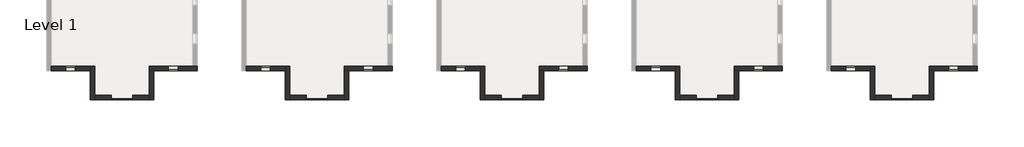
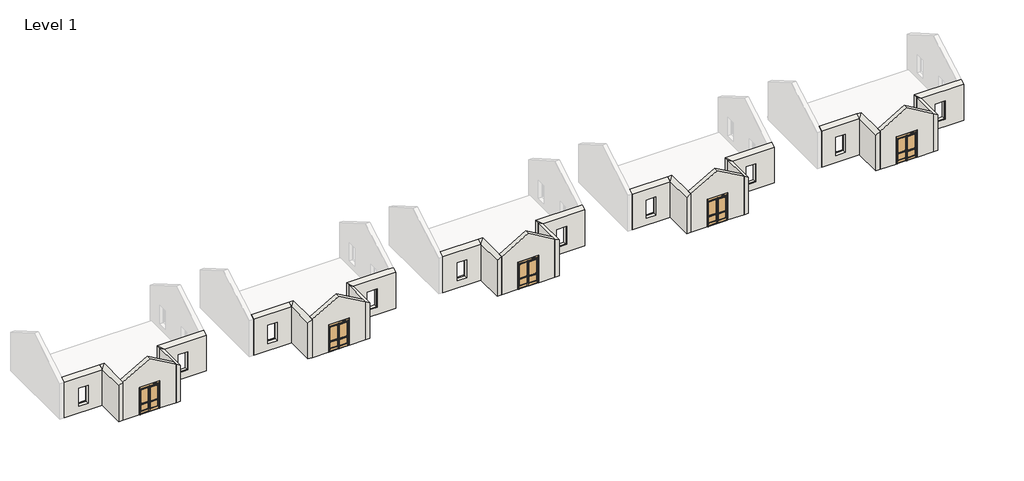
# One storey, part 1 of 4: 25 walls, 5 doors.
"""IFC4 building model written with IfcOpenShell, lengths in millimetres."""

from ifc_helpers import new_model, si_unit, frame, origin, place, context, project, spatial, polyline, outline, extrude, faceted_brep, transform, mapped, element, save
from components import non_impact_rated_medium_stile_77e616cb

model = new_model("IFC4")

# Units and contexts
model_context = context("Model", 3, world=origin())
ifc_project = project(units=[si_unit("LENGTHUNIT", "METRE", prefix="MILLI")], contexts=[model_context])

# Site, building, storey
site = spatial("IfcSite", under=ifc_project)
building = spatial("IfcBuilding", under=site)
storey = spatial("IfcBuildingStorey", under=building, Name="Level 1", Elevation=0.0)

# Doors
placement = place(None, origin())
non_impact_rated_medium_stile_shape = non_impact_rated_medium_stile_77e616cb(model_context)
element("IfcDoor", 1, ObjectType="Door_Sliding_AssaAbloy_Resilience-R128-FBO-Single : Non Impact Rated - Medium Stile", at=placement, inside=storey, context=model_context, shape_type="MappedRepresentation", body=[
    mapped(non_impact_rated_medium_stile_shape, transform((-20939.1239555, -6391.8790712, 0.0), x_axis=(1.0, 0.0, 0.0), y_axis=(0.0, 1.0, 0.0), z_axis=(0.0, 0.0, 1.0))),
])
element("IfcDoor", 2, ObjectType="Door_Sliding_AssaAbloy_Resilience-R128-FBO-Single : Non Impact Rated - Medium Stile", at=placement, inside=storey, context=model_context, shape_type="MappedRepresentation", body=[
    mapped(non_impact_rated_medium_stile_shape, transform((-939.1239555, -6391.8790712, 0.0), x_axis=(1.0, 0.0, 0.0), y_axis=(0.0, 1.0, 0.0), z_axis=(0.0, 0.0, 1.0))),
])
element("IfcDoor", 3, ObjectType="Door_Sliding_AssaAbloy_Resilience-R128-FBO-Single : Non Impact Rated - Medium Stile", at=placement, inside=storey, context=model_context, shape_type="MappedRepresentation", body=[
    mapped(non_impact_rated_medium_stile_shape, transform((19060.8760445, -6391.8790712, 0.0), x_axis=(1.0, 0.0, 0.0), y_axis=(0.0, 1.0, 0.0), z_axis=(0.0, 0.0, 1.0))),
])
element("IfcDoor", 4, ObjectType="Door_Sliding_AssaAbloy_Resilience-R128-FBO-Single : Non Impact Rated - Medium Stile", at=placement, inside=storey, context=model_context, shape_type="MappedRepresentation", body=[
    mapped(non_impact_rated_medium_stile_shape, transform((39060.8760445, -6391.8790712, 0.0), x_axis=(1.0, 0.0, 0.0), y_axis=(0.0, 1.0, 0.0), z_axis=(0.0, 0.0, 1.0))),
])
element("IfcDoor", 5, ObjectType="Door_Sliding_AssaAbloy_Resilience-R128-FBO-Single : Non Impact Rated - Medium Stile", at=placement, inside=storey, context=model_context, shape_type="MappedRepresentation", body=[
    mapped(non_impact_rated_medium_stile_shape, transform((59060.8760445, -6391.8790712, 0.0), x_axis=(1.0, 0.0, 0.0), y_axis=(0.0, 1.0, 0.0), z_axis=(0.0, 0.0, 1.0))),
])

# Walls
element("IfcWall", 6, ObjectType="Exterior - Block on Mtl. Stud", at=placement, inside=storey, context=model_context, shape_type="Brep", body=[
    faceted_brep([(-11576.2332588, -4024.5201151, 4265.5811238), (-11576.2332588, -4024.5201151, 0.0), (-11741.2332588, -4024.5201151, 0.0), (-11741.2332588, -4024.5201151, 150.0), (-12036.2332588, -4024.5201151, 150.0), (-16496.2332588, -4024.5201151, 150.0), (-16496.2332588, -4024.5201151, 4265.5811238), (-12036.2332588, -4024.5201151, 4265.5811238), (-13536.2332588, -4024.5201151, 2800.0), (-14536.2332588, -4024.5201151, 2800.0), (-14536.2332588, -4024.5201151, 770.0), (-13536.2332588, -4024.5201151, 770.0), (-11576.2332588, -4484.5201151, 0.0), (-11576.2332588, -4484.5201151, 4000.0), (-16036.2332588, -4484.5201151, 4000.0), (-16496.2332588, -4484.5201151, 4265.5811238), (-16496.2332588, -4484.5201151, 150.0), (-16201.2332588, -4484.5201151, 150.0), (-16201.2332588, -4484.5201151, 0.0), (-16036.2332588, -4484.5201151, 0.0), (-14555.2326208, -4484.5201151, 2832.0), (-13517.2338968, -4484.5201151, 2832.0), (-13517.2338968, -4484.5201151, 800.0), (-14555.2326208, -4484.5201151, 800.0), (-16201.2332588, -4319.5201151, 0.0), (-11741.2332588, -4319.5201151, 0.0), (-13536.2332588, -4364.5201151, 2800.0), (-14536.2332588, -4364.5201151, 2800.0), (-14536.2332588, -4384.5201151, 770.0), (-13536.2332588, -4384.5201151, 770.0), (-14536.2332588, -4364.5201151, 800.0), (-14536.2332588, -4384.5201151, 800.0), (-13536.2332588, -4384.5201151, 800.0), (-13536.2332588, -4364.5201151, 800.0), (-13504.2332588, -4364.5201151, 2832.0), (-13504.2332588, -4377.5201151, 2832.0), (-13517.2338968, -4377.5201151, 2832.0), (-14555.2326208, -4377.5201151, 2832.0), (-14568.2332588, -4377.5201151, 2832.0), (-14568.2332588, -4364.5201151, 2832.0), (-14568.2332588, -4364.5201151, 800.0), (-14568.2332588, -4377.5201151, 800.0), (-14555.2326208, -4377.5201151, 800.0), (-13517.2338968, -4377.5201151, 800.0), (-13504.2332588, -4377.5201151, 800.0), (-13504.2332588, -4364.5201151, 800.0), (-11741.2332588, -4319.5201151, 150.0), (-16201.2332588, -4319.5201151, 150.0)], [[[0, 1, 2, 3, 4, 5, 6, 7], [8, 9, 10, 11]], [[12, 13, 14, 15, 16, 17, 18, 19], [20, 21, 22, 23]], [[1, 12, 19, 18, 24, 25, 2]], [[1, 0, 13, 12]], [[9, 8, 26, 27]], [[10, 28, 29, 11]], [[9, 27, 30, 31, 28, 10]], [[29, 28, 31, 32]], [[26, 8, 11, 29, 32, 33]], [[34, 35, 36, 21, 20, 37, 38, 39]], [[31, 30, 40, 41, 42, 23, 22, 43, 44, 45, 33, 32]], [[27, 26, 33, 45, 34, 39, 40, 30]], [[39, 38, 41, 40]], [[35, 34, 45, 44]], [[38, 37, 42, 41]], [[37, 20, 23, 42]], [[21, 36, 43, 22]], [[36, 35, 44, 43]], [[15, 6, 5, 16]], [[46, 47, 17, 16, 5, 4, 3]], [[25, 46, 3, 2]], [[47, 46, 25, 24]], [[47, 24, 18, 17]], [[13, 0, 7, 6, 14]], [[6, 15, 14]]]),
])
element("IfcWall", 7, ObjectType="Exterior - Block on Mtl. Stud", at=placement, inside=storey, context=model_context, shape_type="Brep", body=[
    faceted_brep([(-22576.2332588, -4024.5201151, 0.0), (-22576.2332588, -4484.5201151, 0.0), (-22576.2332588, -7484.5201151, 0.0), (-22576.2332588, -7484.5201151, 4000.0), (-22576.2332588, -4484.5201151, 4000.0), (-22576.2332588, -4024.5201151, 4265.5811238), (-22116.2332588, -4024.5201151, 0.0), (-22116.2332588, -4024.5201151, 4265.5811238), (-22116.2332588, -7024.5201151, 4265.5811238), (-22116.2332588, -7484.5201151, 4265.5811238), (-22116.2332588, -7484.5201151, 0.0), (-22116.2332588, -7024.5201151, 0.0)], [[[0, 1, 2, 3, 4, 5]], [[6, 7, 8, 9, 10, 11]], [[2, 1, 0, 6, 11, 10]], [[3, 2, 10, 9]], [[0, 5, 7, 6]], [[5, 4, 7]], [[4, 3, 9, 8, 7]]]),
])
element("IfcWall", 8, ObjectType="Exterior - Block on Mtl. Stud", at=placement, inside=storey, context=model_context, shape_type="Brep", body=[
    faceted_brep([(-16496.2332588, -4484.5201151, 0.0), (-16496.2332588, -7024.5201151, 0.0), (-16496.2332588, -7484.5201151, 0.0), (-16496.2332588, -7484.5201151, 4265.5811238), (-16496.2332588, -7024.5201151, 4265.5811238), (-16496.2332588, -4484.5201151, 4265.5811238), (-16036.2332588, -4484.5201151, 0.0), (-16036.2332588, -4484.5201151, 4000.0), (-16036.2332588, -7484.5201151, 4000.0), (-16036.2332588, -7484.5201151, 0.0)], [[[0, 1, 2, 3, 4, 5]], [[6, 7, 8, 9]], [[2, 1, 0, 6, 9]], [[3, 2, 9, 8]], [[0, 5, 7, 6]], [[5, 4, 3, 8, 7]]]),
])
element("IfcWall", 9, ObjectType="Exterior - Block on Mtl. Stud", at=placement, inside=storey, context=model_context, shape_type="SweptSolid", body=[
    extrude(outline(polyline([(4265.5811238, -22116.2332588), (0.0, -22116.2332588), (0.0, -20404.7832588), (3054.35, -20404.7832588), (3054.35, -18207.6832588), (0.0, -18207.6832588), (0.0, -16496.2332588), (4265.5811238, -16496.2332588), (5887.9353803, -19306.2332588), (4265.5811238, -22116.2332588)])), frame((0.0, -7484.5201151, 0.0), z_axis=(0.0, 1.0, 0.0), x_axis=(0.0, 0.0, 1.0)), (0.0, 0.0, 1.0), 460.0),
])
element("IfcWall", 10, ObjectType="Exterior - Block on Mtl. Stud", at=placement, inside=storey, context=model_context, shape_type="Brep", body=[
    faceted_brep([(-22576.2332588, -4024.5201151, 0.0), (-26576.2332588, -4024.5201151, 0.0), (-26576.2332588, -4024.5201151, 4265.5811238), (-22576.2332588, -4024.5201151, 4265.5811238), (-24057.2338968, -4024.5201151, 2832.0), (-25095.2326208, -4024.5201151, 2832.0), (-25095.2326208, -4024.5201151, 800.0), (-24057.2338968, -4024.5201151, 800.0), (-22576.2332588, -4484.5201151, 0.0), (-22576.2332588, -4484.5201151, 4000.0), (-26576.2332588, -4484.5201151, 4000.0), (-26576.2332588, -4484.5201151, 0.0), (-25076.2332588, -4484.5201151, 2800.0), (-24076.2332588, -4484.5201151, 2800.0), (-24076.2332588, -4484.5201151, 770.0), (-25076.2332588, -4484.5201151, 770.0), (-26576.2332588, -4319.5201151, 0.0), (-25076.2332588, -4144.5201151, 2800.0), (-24076.2332588, -4144.5201151, 2800.0), (-24076.2332588, -4124.5201151, 770.0), (-25076.2332588, -4124.5201151, 770.0), (-24076.2332588, -4144.5201151, 800.0), (-24076.2332588, -4124.5201151, 800.0), (-25076.2332588, -4124.5201151, 800.0), (-25076.2332588, -4144.5201151, 800.0), (-25108.2332588, -4144.5201151, 2832.0), (-25108.2332588, -4131.5201151, 2832.0), (-25095.2326208, -4131.5201151, 2832.0), (-24057.2338968, -4131.5201151, 2832.0), (-24044.2332588, -4131.5201151, 2832.0), (-24044.2332588, -4144.5201151, 2832.0), (-24044.2332588, -4144.5201151, 800.0), (-24044.2332588, -4131.5201151, 800.0), (-24057.2338968, -4131.5201151, 800.0), (-25095.2326208, -4131.5201151, 800.0), (-25108.2332588, -4131.5201151, 800.0), (-25108.2332588, -4144.5201151, 800.0)], [[[0, 1, 2, 3], [4, 5, 6, 7]], [[8, 9, 10, 11], [12, 13, 14, 15]], [[1, 0, 8, 11, 16]], [[2, 1, 16, 11, 10]], [[0, 3, 9, 8]], [[13, 12, 17, 18]], [[14, 19, 20, 15]], [[19, 14, 13, 18, 21, 22]], [[20, 19, 22, 23]], [[15, 20, 23, 24, 17, 12]], [[25, 26, 27, 5, 4, 28, 29, 30]], [[31, 32, 33, 7, 6, 34, 35, 36, 24, 23, 22, 21]], [[25, 30, 31, 21, 18, 17, 24, 36]], [[30, 29, 32, 31]], [[26, 25, 36, 35]], [[29, 28, 33, 32]], [[28, 4, 7, 33]], [[5, 27, 34, 6]], [[27, 26, 35, 34]], [[3, 2, 10, 9]]]),
])
element("IfcWall", 11, ObjectType="Exterior - Block on Mtl. Stud", at=placement, inside=storey, context=model_context, shape_type="Brep", body=[
    faceted_brep([(8423.7667412, -4024.5201151, 4265.5811238), (8423.7667412, -4024.5201151, 0.0), (8258.7667412, -4024.5201151, 0.0), (8258.7667412, -4024.5201151, 150.0), (7963.7667412, -4024.5201151, 150.0), (3503.7667412, -4024.5201151, 150.0), (3503.7667412, -4024.5201151, 4265.5811238), (7963.7667412, -4024.5201151, 4265.5811238), (6463.7667412, -4024.5201151, 2800.0), (5463.7667412, -4024.5201151, 2800.0), (5463.7667412, -4024.5201151, 770.0), (6463.7667412, -4024.5201151, 770.0), (8423.7667412, -4484.5201151, 0.0), (8423.7667412, -4484.5201151, 4000.0), (3963.7667412, -4484.5201151, 4000.0), (3503.7667412, -4484.5201151, 4265.5811238), (3503.7667412, -4484.5201151, 150.0), (3798.7667412, -4484.5201151, 150.0), (3798.7667412, -4484.5201151, 0.0), (3963.7667412, -4484.5201151, 0.0), (5444.7673792, -4484.5201151, 2832.0), (6482.7661032, -4484.5201151, 2832.0), (6482.7661032, -4484.5201151, 800.0), (5444.7673792, -4484.5201151, 800.0), (3798.7667412, -4319.5201151, 0.0), (8258.7667412, -4319.5201151, 0.0), (6463.7667412, -4364.5201151, 2800.0), (5463.7667412, -4364.5201151, 2800.0), (5463.7667412, -4384.5201151, 770.0), (6463.7667412, -4384.5201151, 770.0), (5463.7667412, -4364.5201151, 800.0), (5463.7667412, -4384.5201151, 800.0), (6463.7667412, -4384.5201151, 800.0), (6463.7667412, -4364.5201151, 800.0), (6495.7667412, -4364.5201151, 2832.0), (6495.7667412, -4377.5201151, 2832.0), (6482.7661032, -4377.5201151, 2832.0), (5444.7673792, -4377.5201151, 2832.0), (5431.7667412, -4377.5201151, 2832.0), (5431.7667412, -4364.5201151, 2832.0), (5431.7667412, -4364.5201151, 800.0), (5431.7667412, -4377.5201151, 800.0), (5444.7673792, -4377.5201151, 800.0), (6482.7661032, -4377.5201151, 800.0), (6495.7667412, -4377.5201151, 800.0), (6495.7667412, -4364.5201151, 800.0), (8258.7667412, -4319.5201151, 150.0), (3798.7667412, -4319.5201151, 150.0)], [[[0, 1, 2, 3, 4, 5, 6, 7], [8, 9, 10, 11]], [[12, 13, 14, 15, 16, 17, 18, 19], [20, 21, 22, 23]], [[1, 12, 19, 18, 24, 25, 2]], [[1, 0, 13, 12]], [[9, 8, 26, 27]], [[10, 28, 29, 11]], [[9, 27, 30, 31, 28, 10]], [[29, 28, 31, 32]], [[26, 8, 11, 29, 32, 33]], [[34, 35, 36, 21, 20, 37, 38, 39]], [[31, 30, 40, 41, 42, 23, 22, 43, 44, 45, 33, 32]], [[27, 26, 33, 45, 34, 39, 40, 30]], [[39, 38, 41, 40]], [[35, 34, 45, 44]], [[38, 37, 42, 41]], [[37, 20, 23, 42]], [[21, 36, 43, 22]], [[36, 35, 44, 43]], [[15, 6, 5, 16]], [[46, 47, 17, 16, 5, 4, 3]], [[25, 46, 3, 2]], [[47, 46, 25, 24]], [[47, 24, 18, 17]], [[13, 0, 7, 6, 14]], [[6, 15, 14]]]),
])
element("IfcWall", 12, ObjectType="Exterior - Block on Mtl. Stud", at=placement, inside=storey, context=model_context, shape_type="Brep", body=[
    faceted_brep([(-2576.2332588, -4024.5201151, 0.0), (-2576.2332588, -4484.5201151, 0.0), (-2576.2332588, -7484.5201151, 0.0), (-2576.2332588, -7484.5201151, 4000.0), (-2576.2332588, -4484.5201151, 4000.0), (-2576.2332588, -4024.5201151, 4265.5811238), (-2116.2332588, -4024.5201151, 0.0), (-2116.2332588, -4024.5201151, 4265.5811238), (-2116.2332588, -7024.5201151, 4265.5811238), (-2116.2332588, -7484.5201151, 4265.5811238), (-2116.2332588, -7484.5201151, 0.0), (-2116.2332588, -7024.5201151, 0.0)], [[[0, 1, 2, 3, 4, 5]], [[6, 7, 8, 9, 10, 11]], [[2, 1, 0, 6, 11, 10]], [[3, 2, 10, 9]], [[0, 5, 7, 6]], [[5, 4, 7]], [[4, 3, 9, 8, 7]]]),
])
element("IfcWall", 13, ObjectType="Exterior - Block on Mtl. Stud", at=placement, inside=storey, context=model_context, shape_type="Brep", body=[
    faceted_brep([(3503.7667412, -4484.5201151, 0.0), (3503.7667412, -7024.5201151, 0.0), (3503.7667412, -7484.5201151, 0.0), (3503.7667412, -7484.5201151, 4265.5811238), (3503.7667412, -7024.5201151, 4265.5811238), (3503.7667412, -4484.5201151, 4265.5811238), (3963.7667412, -4484.5201151, 0.0), (3963.7667412, -4484.5201151, 4000.0), (3963.7667412, -7484.5201151, 4000.0), (3963.7667412, -7484.5201151, 0.0)], [[[0, 1, 2, 3, 4, 5]], [[6, 7, 8, 9]], [[2, 1, 0, 6, 9]], [[3, 2, 9, 8]], [[0, 5, 7, 6]], [[5, 4, 3, 8, 7]]]),
])
element("IfcWall", 14, ObjectType="Exterior - Block on Mtl. Stud", at=placement, inside=storey, context=model_context, shape_type="SweptSolid", body=[
    extrude(outline(polyline([(4265.5811238, -2116.2332588), (0.0, -2116.2332588), (0.0, -404.7832588), (3054.35, -404.7832588), (3054.35, 1792.3167412), (0.0, 1792.3167412), (0.0, 3503.7667412), (4265.5811238, 3503.7667412), (5887.9353802, 693.7667412), (4265.5811238, -2116.2332588)])), frame((0.0, -7484.5201151, 0.0), z_axis=(0.0, 1.0, 0.0), x_axis=(0.0, 0.0, 1.0)), (0.0, 0.0, 1.0), 460.0),
])
element("IfcWall", 15, ObjectType="Exterior - Block on Mtl. Stud", at=placement, inside=storey, context=model_context, shape_type="Brep", body=[
    faceted_brep([(-2576.2332588, -4024.5201151, 0.0), (-6576.2332588, -4024.5201151, 0.0), (-6576.2332588, -4024.5201151, 4265.5811238), (-2576.2332588, -4024.5201151, 4265.5811238), (-4057.2338968, -4024.5201151, 2832.0), (-5095.2326208, -4024.5201151, 2832.0), (-5095.2326208, -4024.5201151, 800.0), (-4057.2338968, -4024.5201151, 800.0), (-2576.2332588, -4484.5201151, 0.0), (-2576.2332588, -4484.5201151, 4000.0), (-6576.2332588, -4484.5201151, 4000.0), (-6576.2332588, -4484.5201151, 0.0), (-5076.2332588, -4484.5201151, 2800.0), (-4076.2332588, -4484.5201151, 2800.0), (-4076.2332588, -4484.5201151, 770.0), (-5076.2332588, -4484.5201151, 770.0), (-6576.2332588, -4319.5201151, 0.0), (-5076.2332588, -4144.5201151, 2800.0), (-4076.2332588, -4144.5201151, 2800.0), (-4076.2332588, -4124.5201151, 770.0), (-5076.2332588, -4124.5201151, 770.0), (-4076.2332588, -4144.5201151, 800.0), (-4076.2332588, -4124.5201151, 800.0), (-5076.2332588, -4124.5201151, 800.0), (-5076.2332588, -4144.5201151, 800.0), (-5108.2332588, -4144.5201151, 2832.0), (-5108.2332588, -4131.5201151, 2832.0), (-5095.2326208, -4131.5201151, 2832.0), (-4057.2338968, -4131.5201151, 2832.0), (-4044.2332588, -4131.5201151, 2832.0), (-4044.2332588, -4144.5201151, 2832.0), (-4044.2332588, -4144.5201151, 800.0), (-4044.2332588, -4131.5201151, 800.0), (-4057.2338968, -4131.5201151, 800.0), (-5095.2326208, -4131.5201151, 800.0), (-5108.2332588, -4131.5201151, 800.0), (-5108.2332588, -4144.5201151, 800.0)], [[[0, 1, 2, 3], [4, 5, 6, 7]], [[8, 9, 10, 11], [12, 13, 14, 15]], [[1, 0, 8, 11, 16]], [[2, 1, 16, 11, 10]], [[0, 3, 9, 8]], [[13, 12, 17, 18]], [[14, 19, 20, 15]], [[19, 14, 13, 18, 21, 22]], [[20, 19, 22, 23]], [[15, 20, 23, 24, 17, 12]], [[25, 26, 27, 5, 4, 28, 29, 30]], [[31, 32, 33, 7, 6, 34, 35, 36, 24, 23, 22, 21]], [[25, 30, 31, 21, 18, 17, 24, 36]], [[30, 29, 32, 31]], [[26, 25, 36, 35]], [[29, 28, 33, 32]], [[28, 4, 7, 33]], [[5, 27, 34, 6]], [[27, 26, 35, 34]], [[3, 2, 10, 9]]]),
])
element("IfcWall", 16, ObjectType="Exterior - Block on Mtl. Stud", at=placement, inside=storey, context=model_context, shape_type="Brep", body=[
    faceted_brep([(28423.7667412, -4024.5201151, 4265.5811238), (28423.7667412, -4024.5201151, 0.0), (28258.7667412, -4024.5201151, 0.0), (28258.7667412, -4024.5201151, 150.0), (27963.7667412, -4024.5201151, 150.0), (23503.7667412, -4024.5201151, 150.0), (23503.7667412, -4024.5201151, 4265.5811238), (27963.7667412, -4024.5201151, 4265.5811238), (26463.7667412, -4024.5201151, 2800.0), (25463.7667412, -4024.5201151, 2800.0), (25463.7667412, -4024.5201151, 770.0), (26463.7667412, -4024.5201151, 770.0), (28423.7667412, -4484.5201151, 0.0), (28423.7667412, -4484.5201151, 4000.0), (23963.7667412, -4484.5201151, 4000.0), (23503.7667412, -4484.5201151, 4265.5811238), (23503.7667412, -4484.5201151, 150.0), (23798.7667412, -4484.5201151, 150.0), (23798.7667412, -4484.5201151, 0.0), (23963.7667412, -4484.5201151, 0.0), (25444.7673792, -4484.5201151, 2832.0), (26482.7661032, -4484.5201151, 2832.0), (26482.7661032, -4484.5201151, 800.0), (25444.7673792, -4484.5201151, 800.0), (23798.7667412, -4319.5201151, 0.0), (28258.7667412, -4319.5201151, 0.0), (26463.7667412, -4364.5201151, 2800.0), (25463.7667412, -4364.5201151, 2800.0), (25463.7667412, -4384.5201151, 770.0), (26463.7667412, -4384.5201151, 770.0), (25463.7667412, -4364.5201151, 800.0), (25463.7667412, -4384.5201151, 800.0), (26463.7667412, -4384.5201151, 800.0), (26463.7667412, -4364.5201151, 800.0), (26495.7667412, -4364.5201151, 2832.0), (26495.7667412, -4377.5201151, 2832.0), (26482.7661032, -4377.5201151, 2832.0), (25444.7673792, -4377.5201151, 2832.0), (25431.7667412, -4377.5201151, 2832.0), (25431.7667412, -4364.5201151, 2832.0), (25431.7667412, -4364.5201151, 800.0), (25431.7667412, -4377.5201151, 800.0), (25444.7673792, -4377.5201151, 800.0), (26482.7661032, -4377.5201151, 800.0), (26495.7667412, -4377.5201151, 800.0), (26495.7667412, -4364.5201151, 800.0), (28258.7667412, -4319.5201151, 150.0), (23798.7667412, -4319.5201151, 150.0)], [[[0, 1, 2, 3, 4, 5, 6, 7], [8, 9, 10, 11]], [[12, 13, 14, 15, 16, 17, 18, 19], [20, 21, 22, 23]], [[1, 12, 19, 18, 24, 25, 2]], [[1, 0, 13, 12]], [[9, 8, 26, 27]], [[10, 28, 29, 11]], [[9, 27, 30, 31, 28, 10]], [[29, 28, 31, 32]], [[26, 8, 11, 29, 32, 33]], [[34, 35, 36, 21, 20, 37, 38, 39]], [[31, 30, 40, 41, 42, 23, 22, 43, 44, 45, 33, 32]], [[27, 26, 33, 45, 34, 39, 40, 30]], [[39, 38, 41, 40]], [[35, 34, 45, 44]], [[38, 37, 42, 41]], [[37, 20, 23, 42]], [[21, 36, 43, 22]], [[36, 35, 44, 43]], [[15, 6, 5, 16]], [[46, 47, 17, 16, 5, 4, 3]], [[25, 46, 3, 2]], [[47, 46, 25, 24]], [[47, 24, 18, 17]], [[13, 0, 7, 6, 14]], [[6, 15, 14]]]),
])
element("IfcWall", 17, ObjectType="Exterior - Block on Mtl. Stud", at=placement, inside=storey, context=model_context, shape_type="Brep", body=[
    faceted_brep([(17423.7667412, -4024.5201151, 0.0), (17423.7667412, -4484.5201151, 0.0), (17423.7667412, -7484.5201151, 0.0), (17423.7667412, -7484.5201151, 4000.0), (17423.7667412, -4484.5201151, 4000.0), (17423.7667412, -4024.5201151, 4265.5811238), (17883.7667412, -4024.5201151, 0.0), (17883.7667412, -4024.5201151, 4265.5811238), (17883.7667412, -7024.5201151, 4265.5811238), (17883.7667412, -7484.5201151, 4265.5811238), (17883.7667412, -7484.5201151, 0.0), (17883.7667412, -7024.5201151, 0.0)], [[[0, 1, 2, 3, 4, 5]], [[6, 7, 8, 9, 10, 11]], [[2, 1, 0, 6, 11, 10]], [[3, 2, 10, 9]], [[0, 5, 7, 6]], [[5, 4, 7]], [[4, 3, 9, 8, 7]]]),
])
element("IfcWall", 18, ObjectType="Exterior - Block on Mtl. Stud", at=placement, inside=storey, context=model_context, shape_type="Brep", body=[
    faceted_brep([(23503.7667412, -4484.5201151, 0.0), (23503.7667412, -7024.5201151, 0.0), (23503.7667412, -7484.5201151, 0.0), (23503.7667412, -7484.5201151, 4265.5811238), (23503.7667412, -7024.5201151, 4265.5811238), (23503.7667412, -4484.5201151, 4265.5811238), (23963.7667412, -4484.5201151, 0.0), (23963.7667412, -4484.5201151, 4000.0), (23963.7667412, -7484.5201151, 4000.0), (23963.7667412, -7484.5201151, 0.0)], [[[0, 1, 2, 3, 4, 5]], [[6, 7, 8, 9]], [[2, 1, 0, 6, 9]], [[3, 2, 9, 8]], [[0, 5, 7, 6]], [[5, 4, 3, 8, 7]]]),
])
element("IfcWall", 19, ObjectType="Exterior - Block on Mtl. Stud", at=placement, inside=storey, context=model_context, shape_type="SweptSolid", body=[
    extrude(outline(polyline([(4265.5811238, 17883.7667412), (0.0, 17883.7667412), (0.0, 19595.2167412), (3054.35, 19595.2167412), (3054.35, 21792.3167412), (0.0, 21792.3167412), (0.0, 23503.7667412), (4265.5811238, 23503.7667412), (5887.9353802, 20693.7667412), (4265.5811238, 17883.7667412)])), frame((0.0, -7484.5201151, 0.0), z_axis=(0.0, 1.0, 0.0), x_axis=(0.0, 0.0, 1.0)), (0.0, 0.0, 1.0), 460.0),
])
element("IfcWall", 20, ObjectType="Exterior - Block on Mtl. Stud", at=placement, inside=storey, context=model_context, shape_type="Brep", body=[
    faceted_brep([(17423.7667412, -4024.5201151, 0.0), (13423.7667412, -4024.5201151, 0.0), (13423.7667412, -4024.5201151, 4265.5811238), (17423.7667412, -4024.5201151, 4265.5811238), (15942.7661032, -4024.5201151, 2832.0), (14904.7673792, -4024.5201151, 2832.0), (14904.7673792, -4024.5201151, 800.0), (15942.7661032, -4024.5201151, 800.0), (17423.7667412, -4484.5201151, 0.0), (17423.7667412, -4484.5201151, 4000.0), (13423.7667412, -4484.5201151, 4000.0), (13423.7667412, -4484.5201151, 0.0), (14923.7667412, -4484.5201151, 2800.0), (15923.7667412, -4484.5201151, 2800.0), (15923.7667412, -4484.5201151, 770.0), (14923.7667412, -4484.5201151, 770.0), (13423.7667412, -4319.5201151, 0.0), (14923.7667412, -4144.5201151, 2800.0), (15923.7667412, -4144.5201151, 2800.0), (15923.7667412, -4124.5201151, 770.0), (14923.7667412, -4124.5201151, 770.0), (15923.7667412, -4144.5201151, 800.0), (15923.7667412, -4124.5201151, 800.0), (14923.7667412, -4124.5201151, 800.0), (14923.7667412, -4144.5201151, 800.0), (14891.7667412, -4144.5201151, 2832.0), (14891.7667412, -4131.5201151, 2832.0), (14904.7673792, -4131.5201151, 2832.0), (15942.7661032, -4131.5201151, 2832.0), (15955.7667412, -4131.5201151, 2832.0), (15955.7667412, -4144.5201151, 2832.0), (15955.7667412, -4144.5201151, 800.0), (15955.7667412, -4131.5201151, 800.0), (15942.7661032, -4131.5201151, 800.0), (14904.7673792, -4131.5201151, 800.0), (14891.7667412, -4131.5201151, 800.0), (14891.7667412, -4144.5201151, 800.0)], [[[0, 1, 2, 3], [4, 5, 6, 7]], [[8, 9, 10, 11], [12, 13, 14, 15]], [[1, 0, 8, 11, 16]], [[2, 1, 16, 11, 10]], [[0, 3, 9, 8]], [[13, 12, 17, 18]], [[14, 19, 20, 15]], [[19, 14, 13, 18, 21, 22]], [[20, 19, 22, 23]], [[15, 20, 23, 24, 17, 12]], [[25, 26, 27, 5, 4, 28, 29, 30]], [[31, 32, 33, 7, 6, 34, 35, 36, 24, 23, 22, 21]], [[25, 30, 31, 21, 18, 17, 24, 36]], [[30, 29, 32, 31]], [[26, 25, 36, 35]], [[29, 28, 33, 32]], [[28, 4, 7, 33]], [[5, 27, 34, 6]], [[27, 26, 35, 34]], [[3, 2, 10, 9]]]),
])
element("IfcWall", 21, ObjectType="Exterior - Block on Mtl. Stud", at=placement, inside=storey, context=model_context, shape_type="Brep", body=[
    faceted_brep([(48423.7667412, -4024.5201151, 4265.5811238), (48423.7667412, -4024.5201151, 0.0), (48258.7667412, -4024.5201151, 0.0), (48258.7667412, -4024.5201151, 150.0), (47963.7667412, -4024.5201151, 150.0), (43503.7667412, -4024.5201151, 150.0), (43503.7667412, -4024.5201151, 4265.5811238), (47963.7667412, -4024.5201151, 4265.5811238), (46463.7667412, -4024.5201151, 2800.0), (45463.7667412, -4024.5201151, 2800.0), (45463.7667412, -4024.5201151, 770.0), (46463.7667412, -4024.5201151, 770.0), (48423.7667412, -4484.5201151, 0.0), (48423.7667412, -4484.5201151, 4000.0), (43963.7667412, -4484.5201151, 4000.0), (43503.7667412, -4484.5201151, 4265.5811238), (43503.7667412, -4484.5201151, 150.0), (43798.7667412, -4484.5201151, 150.0), (43798.7667412, -4484.5201151, 0.0), (43963.7667412, -4484.5201151, 0.0), (45444.7673792, -4484.5201151, 2832.0), (46482.7661032, -4484.5201151, 2832.0), (46482.7661032, -4484.5201151, 800.0), (45444.7673792, -4484.5201151, 800.0), (43798.7667412, -4319.5201151, 0.0), (48258.7667412, -4319.5201151, 0.0), (46463.7667412, -4364.5201151, 2800.0), (45463.7667412, -4364.5201151, 2800.0), (45463.7667412, -4384.5201151, 770.0), (46463.7667412, -4384.5201151, 770.0), (45463.7667412, -4364.5201151, 800.0), (45463.7667412, -4384.5201151, 800.0), (46463.7667412, -4384.5201151, 800.0), (46463.7667412, -4364.5201151, 800.0), (46495.7667412, -4364.5201151, 2832.0), (46495.7667412, -4377.5201151, 2832.0), (46482.7661032, -4377.5201151, 2832.0), (45444.7673792, -4377.5201151, 2832.0), (45431.7667412, -4377.5201151, 2832.0), (45431.7667412, -4364.5201151, 2832.0), (45431.7667412, -4364.5201151, 800.0), (45431.7667412, -4377.5201151, 800.0), (45444.7673792, -4377.5201151, 800.0), (46482.7661032, -4377.5201151, 800.0), (46495.7667412, -4377.5201151, 800.0), (46495.7667412, -4364.5201151, 800.0), (48258.7667412, -4319.5201151, 150.0), (43798.7667412, -4319.5201151, 150.0)], [[[0, 1, 2, 3, 4, 5, 6, 7], [8, 9, 10, 11]], [[12, 13, 14, 15, 16, 17, 18, 19], [20, 21, 22, 23]], [[1, 12, 19, 18, 24, 25, 2]], [[1, 0, 13, 12]], [[9, 8, 26, 27]], [[10, 28, 29, 11]], [[9, 27, 30, 31, 28, 10]], [[29, 28, 31, 32]], [[26, 8, 11, 29, 32, 33]], [[34, 35, 36, 21, 20, 37, 38, 39]], [[31, 30, 40, 41, 42, 23, 22, 43, 44, 45, 33, 32]], [[27, 26, 33, 45, 34, 39, 40, 30]], [[39, 38, 41, 40]], [[35, 34, 45, 44]], [[38, 37, 42, 41]], [[37, 20, 23, 42]], [[21, 36, 43, 22]], [[36, 35, 44, 43]], [[15, 6, 5, 16]], [[46, 47, 17, 16, 5, 4, 3]], [[25, 46, 3, 2]], [[47, 46, 25, 24]], [[47, 24, 18, 17]], [[13, 0, 7, 6, 14]], [[6, 15, 14]]]),
])
element("IfcWall", 22, ObjectType="Exterior - Block on Mtl. Stud", at=placement, inside=storey, context=model_context, shape_type="Brep", body=[
    faceted_brep([(37423.7667412, -4024.5201151, 0.0), (37423.7667412, -4484.5201151, 0.0), (37423.7667412, -7484.5201151, 0.0), (37423.7667412, -7484.5201151, 4000.0), (37423.7667412, -4484.5201151, 4000.0), (37423.7667412, -4024.5201151, 4265.5811238), (37883.7667412, -4024.5201151, 0.0), (37883.7667412, -4024.5201151, 4265.5811238), (37883.7667412, -7024.5201151, 4265.5811238), (37883.7667412, -7484.5201151, 4265.5811238), (37883.7667412, -7484.5201151, 0.0), (37883.7667412, -7024.5201151, 0.0)], [[[0, 1, 2, 3, 4, 5]], [[6, 7, 8, 9, 10, 11]], [[2, 1, 0, 6, 11, 10]], [[3, 2, 10, 9]], [[0, 5, 7, 6]], [[5, 4, 7]], [[4, 3, 9, 8, 7]]]),
])
element("IfcWall", 23, ObjectType="Exterior - Block on Mtl. Stud", at=placement, inside=storey, context=model_context, shape_type="Brep", body=[
    faceted_brep([(43503.7667412, -4484.5201151, 0.0), (43503.7667412, -7024.5201151, 0.0), (43503.7667412, -7484.5201151, 0.0), (43503.7667412, -7484.5201151, 4265.5811238), (43503.7667412, -7024.5201151, 4265.5811238), (43503.7667412, -4484.5201151, 4265.5811238), (43963.7667412, -4484.5201151, 0.0), (43963.7667412, -4484.5201151, 4000.0), (43963.7667412, -7484.5201151, 4000.0), (43963.7667412, -7484.5201151, 0.0)], [[[0, 1, 2, 3, 4, 5]], [[6, 7, 8, 9]], [[2, 1, 0, 6, 9]], [[3, 2, 9, 8]], [[0, 5, 7, 6]], [[5, 4, 3, 8, 7]]]),
])
element("IfcWall", 24, ObjectType="Exterior - Block on Mtl. Stud", at=placement, inside=storey, context=model_context, shape_type="SweptSolid", body=[
    extrude(outline(polyline([(4265.5811238, 37883.7667412), (0.0, 37883.7667412), (0.0, 39595.2167412), (3054.35, 39595.2167412), (3054.35, 41792.3167412), (0.0, 41792.3167412), (0.0, 43503.7667412), (4265.5811238, 43503.7667412), (5887.9353802, 40693.7667412), (4265.5811238, 37883.7667412)])), frame((0.0, -7484.5201151, 0.0), z_axis=(0.0, 1.0, 0.0), x_axis=(0.0, 0.0, 1.0)), (0.0, 0.0, 1.0), 460.0),
])
element("IfcWall", 25, ObjectType="Exterior - Block on Mtl. Stud", at=placement, inside=storey, context=model_context, shape_type="Brep", body=[
    faceted_brep([(37423.7667412, -4024.5201151, 0.0), (33423.7667412, -4024.5201151, 0.0), (33423.7667412, -4024.5201151, 4265.5811238), (37423.7667412, -4024.5201151, 4265.5811238), (35942.7661032, -4024.5201151, 2832.0), (34904.7673792, -4024.5201151, 2832.0), (34904.7673792, -4024.5201151, 800.0), (35942.7661032, -4024.5201151, 800.0), (37423.7667412, -4484.5201151, 0.0), (37423.7667412, -4484.5201151, 4000.0), (33423.7667412, -4484.5201151, 4000.0), (33423.7667412, -4484.5201151, 0.0), (34923.7667412, -4484.5201151, 2800.0), (35923.7667412, -4484.5201151, 2800.0), (35923.7667412, -4484.5201151, 770.0), (34923.7667412, -4484.5201151, 770.0), (33423.7667412, -4319.5201151, 0.0), (34923.7667412, -4144.5201151, 2800.0), (35923.7667412, -4144.5201151, 2800.0), (35923.7667412, -4124.5201151, 770.0), (34923.7667412, -4124.5201151, 770.0), (35923.7667412, -4144.5201151, 800.0), (35923.7667412, -4124.5201151, 800.0), (34923.7667412, -4124.5201151, 800.0), (34923.7667412, -4144.5201151, 800.0), (34891.7667412, -4144.5201151, 2832.0), (34891.7667412, -4131.5201151, 2832.0), (34904.7673792, -4131.5201151, 2832.0), (35942.7661032, -4131.5201151, 2832.0), (35955.7667412, -4131.5201151, 2832.0), (35955.7667412, -4144.5201151, 2832.0), (35955.7667412, -4144.5201151, 800.0), (35955.7667412, -4131.5201151, 800.0), (35942.7661032, -4131.5201151, 800.0), (34904.7673792, -4131.5201151, 800.0), (34891.7667412, -4131.5201151, 800.0), (34891.7667412, -4144.5201151, 800.0)], [[[0, 1, 2, 3], [4, 5, 6, 7]], [[8, 9, 10, 11], [12, 13, 14, 15]], [[1, 0, 8, 11, 16]], [[2, 1, 16, 11, 10]], [[0, 3, 9, 8]], [[13, 12, 17, 18]], [[14, 19, 20, 15]], [[19, 14, 13, 18, 21, 22]], [[20, 19, 22, 23]], [[15, 20, 23, 24, 17, 12]], [[25, 26, 27, 5, 4, 28, 29, 30]], [[31, 32, 33, 7, 6, 34, 35, 36, 24, 23, 22, 21]], [[25, 30, 31, 21, 18, 17, 24, 36]], [[30, 29, 32, 31]], [[26, 25, 36, 35]], [[29, 28, 33, 32]], [[28, 4, 7, 33]], [[5, 27, 34, 6]], [[27, 26, 35, 34]], [[3, 2, 10, 9]]]),
])
element("IfcWall", 26, ObjectType="Exterior - Block on Mtl. Stud", at=placement, inside=storey, context=model_context, shape_type="Brep", body=[
    faceted_brep([(68423.7667412, -4024.5201151, 4265.5811238), (68423.7667412, -4024.5201151, 0.0), (68258.7667412, -4024.5201151, 0.0), (68258.7667412, -4024.5201151, 150.0), (67963.7667412, -4024.5201151, 150.0), (63503.7667412, -4024.5201151, 150.0), (63503.7667412, -4024.5201151, 4265.5811238), (67963.7667412, -4024.5201151, 4265.5811238), (66463.7667412, -4024.5201151, 2800.0), (65463.7667412, -4024.5201151, 2800.0), (65463.7667412, -4024.5201151, 770.0), (66463.7667412, -4024.5201151, 770.0), (68423.7667412, -4484.5201151, 0.0), (68423.7667412, -4484.5201151, 4000.0), (63963.7667412, -4484.5201151, 4000.0), (63503.7667412, -4484.5201151, 4265.5811238), (63503.7667412, -4484.5201151, 150.0), (63798.7667412, -4484.5201151, 150.0), (63798.7667412, -4484.5201151, 0.0), (63963.7667412, -4484.5201151, 0.0), (65444.7673792, -4484.5201151, 2832.0), (66482.7661032, -4484.5201151, 2832.0), (66482.7661032, -4484.5201151, 800.0), (65444.7673792, -4484.5201151, 800.0), (63798.7667412, -4319.5201151, 0.0), (68258.7667412, -4319.5201151, 0.0), (66463.7667412, -4364.5201151, 2800.0), (65463.7667412, -4364.5201151, 2800.0), (65463.7667412, -4384.5201151, 770.0), (66463.7667412, -4384.5201151, 770.0), (65463.7667412, -4364.5201151, 800.0), (65463.7667412, -4384.5201151, 800.0), (66463.7667412, -4384.5201151, 800.0), (66463.7667412, -4364.5201151, 800.0), (66495.7667412, -4364.5201151, 2832.0), (66495.7667412, -4377.5201151, 2832.0), (66482.7661032, -4377.5201151, 2832.0), (65444.7673792, -4377.5201151, 2832.0), (65431.7667412, -4377.5201151, 2832.0), (65431.7667412, -4364.5201151, 2832.0), (65431.7667412, -4364.5201151, 800.0), (65431.7667412, -4377.5201151, 800.0), (65444.7673792, -4377.5201151, 800.0), (66482.7661032, -4377.5201151, 800.0), (66495.7667412, -4377.5201151, 800.0), (66495.7667412, -4364.5201151, 800.0), (68258.7667412, -4319.5201151, 150.0), (63798.7667412, -4319.5201151, 150.0)], [[[0, 1, 2, 3, 4, 5, 6, 7], [8, 9, 10, 11]], [[12, 13, 14, 15, 16, 17, 18, 19], [20, 21, 22, 23]], [[1, 12, 19, 18, 24, 25, 2]], [[1, 0, 13, 12]], [[9, 8, 26, 27]], [[10, 28, 29, 11]], [[9, 27, 30, 31, 28, 10]], [[29, 28, 31, 32]], [[26, 8, 11, 29, 32, 33]], [[34, 35, 36, 21, 20, 37, 38, 39]], [[31, 30, 40, 41, 42, 23, 22, 43, 44, 45, 33, 32]], [[27, 26, 33, 45, 34, 39, 40, 30]], [[39, 38, 41, 40]], [[35, 34, 45, 44]], [[38, 37, 42, 41]], [[37, 20, 23, 42]], [[21, 36, 43, 22]], [[36, 35, 44, 43]], [[15, 6, 5, 16]], [[46, 47, 17, 16, 5, 4, 3]], [[25, 46, 3, 2]], [[47, 46, 25, 24]], [[47, 24, 18, 17]], [[13, 0, 7, 6, 14]], [[6, 15, 14]]]),
])
element("IfcWall", 27, ObjectType="Exterior - Block on Mtl. Stud", at=placement, inside=storey, context=model_context, shape_type="Brep", body=[
    faceted_brep([(57423.7667412, -4024.5201151, 0.0), (57423.7667412, -4484.5201151, 0.0), (57423.7667412, -7484.5201151, 0.0), (57423.7667412, -7484.5201151, 4000.0), (57423.7667412, -4484.5201151, 4000.0), (57423.7667412, -4024.5201151, 4265.5811238), (57883.7667412, -4024.5201151, 0.0), (57883.7667412, -4024.5201151, 4265.5811238), (57883.7667412, -7024.5201151, 4265.5811238), (57883.7667412, -7484.5201151, 4265.5811238), (57883.7667412, -7484.5201151, 0.0), (57883.7667412, -7024.5201151, 0.0)], [[[0, 1, 2, 3, 4, 5]], [[6, 7, 8, 9, 10, 11]], [[2, 1, 0, 6, 11, 10]], [[3, 2, 10, 9]], [[0, 5, 7, 6]], [[5, 4, 7]], [[4, 3, 9, 8, 7]]]),
])
element("IfcWall", 28, ObjectType="Exterior - Block on Mtl. Stud", at=placement, inside=storey, context=model_context, shape_type="Brep", body=[
    faceted_brep([(63503.7667412, -4484.5201151, 0.0), (63503.7667412, -7024.5201151, 0.0), (63503.7667412, -7484.5201151, 0.0), (63503.7667412, -7484.5201151, 4265.5811238), (63503.7667412, -7024.5201151, 4265.5811238), (63503.7667412, -4484.5201151, 4265.5811238), (63963.7667412, -4484.5201151, 0.0), (63963.7667412, -4484.5201151, 4000.0), (63963.7667412, -7484.5201151, 4000.0), (63963.7667412, -7484.5201151, 0.0)], [[[0, 1, 2, 3, 4, 5]], [[6, 7, 8, 9]], [[2, 1, 0, 6, 9]], [[3, 2, 9, 8]], [[0, 5, 7, 6]], [[5, 4, 3, 8, 7]]]),
])
element("IfcWall", 29, ObjectType="Exterior - Block on Mtl. Stud", at=placement, inside=storey, context=model_context, shape_type="SweptSolid", body=[
    extrude(outline(polyline([(4265.5811238, 57883.7667412), (0.0, 57883.7667412), (0.0, 59595.2167412), (3054.35, 59595.2167412), (3054.35, 61792.3167412), (0.0, 61792.3167412), (0.0, 63503.7667412), (4265.5811238, 63503.7667412), (5887.9353802, 60693.7667412), (4265.5811238, 57883.7667412)])), frame((0.0, -7484.5201151, 0.0), z_axis=(0.0, 1.0, 0.0), x_axis=(0.0, 0.0, 1.0)), (0.0, 0.0, 1.0), 460.0),
])
element("IfcWall", 30, ObjectType="Exterior - Block on Mtl. Stud", at=placement, inside=storey, context=model_context, shape_type="Brep", body=[
    faceted_brep([(57423.7667412, -4024.5201151, 0.0), (53423.7667412, -4024.5201151, 0.0), (53423.7667412, -4024.5201151, 4265.5811238), (57423.7667412, -4024.5201151, 4265.5811238), (55942.7661032, -4024.5201151, 2832.0), (54904.7673792, -4024.5201151, 2832.0), (54904.7673792, -4024.5201151, 800.0), (55942.7661032, -4024.5201151, 800.0), (57423.7667412, -4484.5201151, 0.0), (57423.7667412, -4484.5201151, 4000.0), (53423.7667412, -4484.5201151, 4000.0), (53423.7667412, -4484.5201151, 0.0), (54923.7667412, -4484.5201151, 2800.0), (55923.7667412, -4484.5201151, 2800.0), (55923.7667412, -4484.5201151, 770.0), (54923.7667412, -4484.5201151, 770.0), (53423.7667412, -4319.5201151, 0.0), (54923.7667412, -4144.5201151, 2800.0), (55923.7667412, -4144.5201151, 2800.0), (55923.7667412, -4124.5201151, 770.0), (54923.7667412, -4124.5201151, 770.0), (55923.7667412, -4144.5201151, 800.0), (55923.7667412, -4124.5201151, 800.0), (54923.7667412, -4124.5201151, 800.0), (54923.7667412, -4144.5201151, 800.0), (54891.7667412, -4144.5201151, 2832.0), (54891.7667412, -4131.5201151, 2832.0), (54904.7673792, -4131.5201151, 2832.0), (55942.7661032, -4131.5201151, 2832.0), (55955.7667412, -4131.5201151, 2832.0), (55955.7667412, -4144.5201151, 2832.0), (55955.7667412, -4144.5201151, 800.0), (55955.7667412, -4131.5201151, 800.0), (55942.7661032, -4131.5201151, 800.0), (54904.7673792, -4131.5201151, 800.0), (54891.7667412, -4131.5201151, 800.0), (54891.7667412, -4144.5201151, 800.0)], [[[0, 1, 2, 3], [4, 5, 6, 7]], [[8, 9, 10, 11], [12, 13, 14, 15]], [[1, 0, 8, 11, 16]], [[2, 1, 16, 11, 10]], [[0, 3, 9, 8]], [[13, 12, 17, 18]], [[14, 19, 20, 15]], [[19, 14, 13, 18, 21, 22]], [[20, 19, 22, 23]], [[15, 20, 23, 24, 17, 12]], [[25, 26, 27, 5, 4, 28, 29, 30]], [[31, 32, 33, 7, 6, 34, 35, 36, 24, 23, 22, 21]], [[25, 30, 31, 21, 18, 17, 24, 36]], [[30, 29, 32, 31]], [[26, 25, 36, 35]], [[29, 28, 33, 32]], [[28, 4, 7, 33]], [[5, 27, 34, 6]], [[27, 26, 35, 34]], [[3, 2, 10, 9]]]),
])

save(model, "model.ifc")
